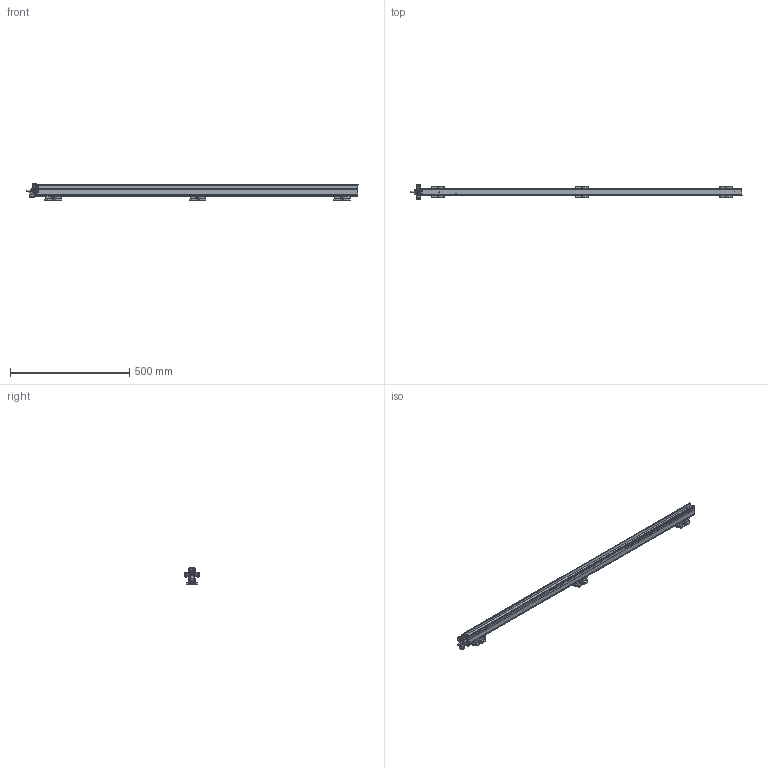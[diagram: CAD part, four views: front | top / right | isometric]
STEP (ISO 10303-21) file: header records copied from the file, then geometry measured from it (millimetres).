
FILE_DESCRIPTION(/* description */ (''),/* implementation_level */ '2;1');
FILE_NAME(/* name */ 'PERFORMAXEASYEX_1170_3D_GB',/* time_stamp */ '2017-05-31T09:48:29+02:00',/* author */ (''),/* organization */ (''),/* preprocessor_version */ 'ST-DEVELOPER v15.7',/* originating_system */ 'HiCAD 2015 2002.1 Build 408',/* authorisation */ '');
FILE_SCHEMA (('AUTOMOTIVE_DESIGN { 1 0 10303 214 1 1 1 1 }'));
Length unit declared in the file: millimetre
Products named in the file (66): Root; -_Performax (IQ) Easy Ex 1170 eff (Hybrid + Speed); -_LED; -_PROFILE; -_POTTING; -_CAP DE; -_CAP CE; -_CABLE; -_PIN; -_COVER; 4532000100_Mounting bracket bars; -_Side piece; -_Slide piece; -_Bracket small; DIN 13-M3; DIN 76-M3; 2047507823_PE connection; DIN 916-M4x20-45H_Set screws; GEWINDE; ISO 8738-4-160 HV_Washers for studs; ISO 4032-M4-10_Hexagon nuts; DIN 127-A 4-FSt_Washers; 2047493713_Cable exits; -_Exit K; -_Clip; -_Gland body; -_Exit S; -_Exit Q; -_Washer ø20mm, 5mm thick for corr. conduit (exit
 Q); -_Exit I; -_Exit U; -_Exit A; Thread_2
Assembly tree (65 placements, depth 5):
  Root
    -_Performax (IQ) Easy Ex 1170 eff (Hybrid + Speed)
      -_LED
      -_PROFILE
      -_POTTING
      -_CAP DE
      -_CAP CE
      -_CABLE
      -_PIN
      -_PIN
      -_COVER
      4532000100_Mounting bracket bars
        -_Side piece
        -_Side piece
        -_Slide piece
        -_Bracket small
          DIN 13-M3
          DIN 13-M3
          DIN 76-M3
          DIN 76-M3
      4532000100_Mounting bracket bars
        -_Side piece
        -_Side piece
        -_Slide piece
        -_Bracket small
          DIN 13-M3
          DIN 13-M3
          DIN 76-M3
          DIN 76-M3
      4532000100_Mounting bracket bars
        -_Side piece
        -_Side piece
        -_Slide piece
        -_Bracket small
          DIN 13-M3
          DIN 13-M3
          DIN 76-M3
          DIN 76-M3
      2047507823_PE connection
        DIN 916-M4x20-45H_Set screws
          GEWINDE
        ISO 8738-4-160 HV_Washers for studs
        ISO 4032-M4-10_Hexagon nuts
          GEWINDE
        DIN 127-A 4-FSt_Washers
        ISO 4032-M4-10_Hexagon nuts
          GEWINDE
      2047493713_Cable exits
        -_Exit K
          -_Clip
          -_Gland body
        -_Exit S
          -_Clip
          -_Gland body
        -_Exit Q
          -_Clip
          -_Washer ø20mm, 5mm thick for corr. conduit (exit
 Q)
          -_Gland body
        -_Exit I
          -_Clip
Bounding box: 1392.4 x 58.79 x 68.9 mm (x, y, z)
Volume: 1699458.2 mm3; surface area: 503632.9 mm2
Topology: 55 solids, 64 shells, 2590 faces, 6638 edges, 4032 vertices
Faces by surface type: plane 1152, cylinder 1031, torus 134, sphere 126, bspline 96, cone 51
Full cylindrical faces by diameter (mm): 2.387 x12, 3 x24, 3.141 x4, 4 x5, 4.3 x1, 5.4 x2, 5.5 x15, 8 x2, 11.3 x4, 12.5 x4, 13 x1, 14.6 x5, 15.1 x5, 18.4 x4, 20 x7, 20.2 x4
Entity records: 141652 total; most frequent: CARTESIAN_POINT 28981, DIRECTION 13310, PRESENTATION_STYLE_ASSIGNMENT 12610, OVER_RIDING_STYLED_ITEM 12556, DRAUGHTING_PRE_DEFINED_CURVE_FONT 12538, CURVE_STYLE 12538, ORIENTED_EDGE 12538, EDGE_CURVE 6269
